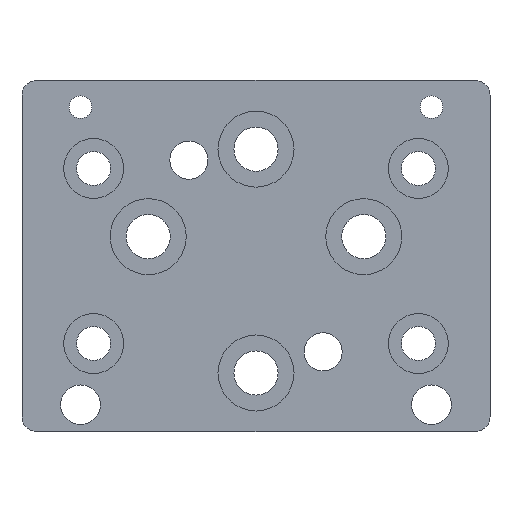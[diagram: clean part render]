
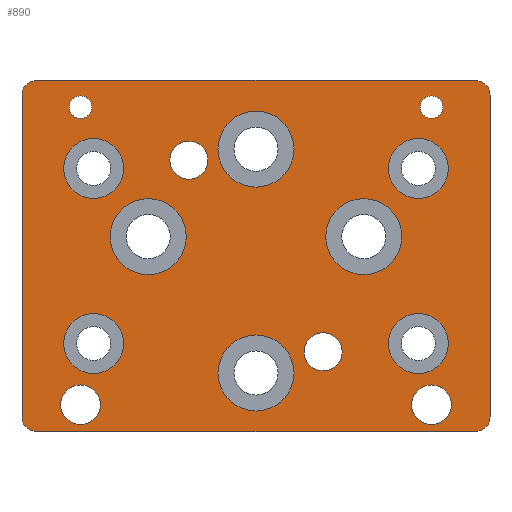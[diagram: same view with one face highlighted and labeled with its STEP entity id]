
A CAD part, front view. The second image highlights one B-rep face of the part: STEP entity #890.
In plain terms, the highlighted planar face has unit normal (0, -1, 0).
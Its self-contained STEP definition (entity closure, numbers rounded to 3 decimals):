
#46=CIRCLE('',#936,4.125);
#47=CIRCLE('',#937,4.125);
#48=CIRCLE('',#938,4.125);
#49=CIRCLE('',#939,4.125);
#50=CIRCLE('',#940,3.25);
#51=CIRCLE('',#941,3.25);
#52=CIRCLE('',#942,3.25);
#53=CIRCLE('',#943,3.25);
#54=CIRCLE('',#944,1.23);
#55=CIRCLE('',#945,1.23);
#56=CIRCLE('',#946,2.15);
#57=CIRCLE('',#947,2.15);
#58=CIRCLE('',#948,2.067);
#59=CIRCLE('',#949,2.067);
#60=CIRCLE('',#950,1.588);
#61=CIRCLE('',#951,1.588);
#62=CIRCLE('',#952,1.588);
#63=CIRCLE('',#953,1.588);
#114=ORIENTED_EDGE('',*,*,#250,.T.);
#115=ORIENTED_EDGE('',*,*,#251,.T.);
#116=ORIENTED_EDGE('',*,*,#252,.T.);
#117=ORIENTED_EDGE('',*,*,#253,.T.);
#118=ORIENTED_EDGE('',*,*,#254,.T.);
#119=ORIENTED_EDGE('',*,*,#255,.T.);
#120=ORIENTED_EDGE('',*,*,#256,.T.);
#121=ORIENTED_EDGE('',*,*,#257,.T.);
#122=ORIENTED_EDGE('',*,*,#258,.F.);
#123=ORIENTED_EDGE('',*,*,#259,.F.);
#124=ORIENTED_EDGE('',*,*,#260,.F.);
#125=ORIENTED_EDGE('',*,*,#261,.F.);
#126=ORIENTED_EDGE('',*,*,#262,.F.);
#127=ORIENTED_EDGE('',*,*,#263,.F.);
#128=ORIENTED_EDGE('',*,*,#240,.F.);
#129=ORIENTED_EDGE('',*,*,#264,.T.);
#130=ORIENTED_EDGE('',*,*,#234,.F.);
#131=ORIENTED_EDGE('',*,*,#265,.T.);
#132=ORIENTED_EDGE('',*,*,#248,.F.);
#133=ORIENTED_EDGE('',*,*,#266,.T.);
#134=ORIENTED_EDGE('',*,*,#242,.F.);
#135=ORIENTED_EDGE('',*,*,#267,.T.);
#234=EDGE_CURVE('',#302,#303,#362,.T.);
#240=EDGE_CURVE('',#308,#309,#368,.T.);
#242=EDGE_CURVE('',#310,#311,#370,.T.);
#248=EDGE_CURVE('',#316,#317,#376,.T.);
#250=EDGE_CURVE('',#318,#318,#46,.T.);
#251=EDGE_CURVE('',#319,#319,#47,.T.);
#252=EDGE_CURVE('',#320,#320,#48,.T.);
#253=EDGE_CURVE('',#321,#321,#49,.T.);
#254=EDGE_CURVE('',#322,#322,#50,.T.);
#255=EDGE_CURVE('',#323,#323,#51,.T.);
#256=EDGE_CURVE('',#324,#324,#52,.T.);
#257=EDGE_CURVE('',#325,#325,#53,.T.);
#258=EDGE_CURVE('',#326,#326,#54,.T.);
#259=EDGE_CURVE('',#327,#327,#55,.T.);
#260=EDGE_CURVE('',#328,#328,#56,.T.);
#261=EDGE_CURVE('',#329,#329,#57,.T.);
#262=EDGE_CURVE('',#330,#330,#58,.T.);
#263=EDGE_CURVE('',#331,#331,#59,.T.);
#264=EDGE_CURVE('',#308,#303,#60,.F.);
#265=EDGE_CURVE('',#302,#317,#61,.F.);
#266=EDGE_CURVE('',#316,#311,#62,.F.);
#267=EDGE_CURVE('',#310,#309,#63,.F.);
#302=VERTEX_POINT('',#1228);
#303=VERTEX_POINT('',#1229);
#308=VERTEX_POINT('',#1240);
#309=VERTEX_POINT('',#1242);
#310=VERTEX_POINT('',#1246);
#311=VERTEX_POINT('',#1247);
#316=VERTEX_POINT('',#1258);
#317=VERTEX_POINT('',#1260);
#318=VERTEX_POINT('',#1264);
#319=VERTEX_POINT('',#1266);
#320=VERTEX_POINT('',#1268);
#321=VERTEX_POINT('',#1270);
#322=VERTEX_POINT('',#1272);
#323=VERTEX_POINT('',#1274);
#324=VERTEX_POINT('',#1276);
#325=VERTEX_POINT('',#1278);
#326=VERTEX_POINT('',#1280);
#327=VERTEX_POINT('',#1282);
#328=VERTEX_POINT('',#1284);
#329=VERTEX_POINT('',#1286);
#330=VERTEX_POINT('',#1288);
#331=VERTEX_POINT('',#1290);
#362=LINE('',#1227,#378);
#368=LINE('',#1241,#384);
#370=LINE('',#1245,#386);
#376=LINE('',#1259,#392);
#378=VECTOR('',#1027,1000.);
#384=VECTOR('',#1035,1000.);
#386=VECTOR('',#1039,1000.);
#392=VECTOR('',#1047,1000.);
#398=EDGE_LOOP('',(#114));
#399=EDGE_LOOP('',(#115));
#400=EDGE_LOOP('',(#116));
#401=EDGE_LOOP('',(#117));
#402=EDGE_LOOP('',(#118));
#403=EDGE_LOOP('',(#119));
#404=EDGE_LOOP('',(#120));
#405=EDGE_LOOP('',(#121));
#406=EDGE_LOOP('',(#122));
#407=EDGE_LOOP('',(#123));
#408=EDGE_LOOP('',(#124));
#409=EDGE_LOOP('',(#125));
#410=EDGE_LOOP('',(#126));
#411=EDGE_LOOP('',(#127));
#412=EDGE_LOOP('',(#128,#129,#130,#131,#132,#133,#134,#135));
#496=FACE_BOUND('',#398,.T.);
#497=FACE_BOUND('',#399,.T.);
#498=FACE_BOUND('',#400,.T.);
#499=FACE_BOUND('',#401,.T.);
#500=FACE_BOUND('',#402,.T.);
#501=FACE_BOUND('',#403,.T.);
#502=FACE_BOUND('',#404,.T.);
#503=FACE_BOUND('',#405,.T.);
#504=FACE_BOUND('',#406,.T.);
#505=FACE_BOUND('',#407,.T.);
#506=FACE_BOUND('',#408,.T.);
#507=FACE_BOUND('',#409,.T.);
#508=FACE_BOUND('',#410,.T.);
#509=FACE_BOUND('',#411,.T.);
#510=FACE_BOUND('',#412,.T.);
#594=PLANE('',#935);
#890=ADVANCED_FACE('',(#496,#497,#498,#499,#500,#501,#502,#503,#504,#505,
#506,#507,#508,#509,#510),#594,.F.);
#935=AXIS2_PLACEMENT_3D('',#1262,#1049,#1050);
#936=AXIS2_PLACEMENT_3D('',#1263,#1051,#1052);
#937=AXIS2_PLACEMENT_3D('',#1265,#1053,#1054);
#938=AXIS2_PLACEMENT_3D('',#1267,#1055,#1056);
#939=AXIS2_PLACEMENT_3D('',#1269,#1057,#1058);
#940=AXIS2_PLACEMENT_3D('',#1271,#1059,#1060);
#941=AXIS2_PLACEMENT_3D('',#1273,#1061,#1062);
#942=AXIS2_PLACEMENT_3D('',#1275,#1063,#1064);
#943=AXIS2_PLACEMENT_3D('',#1277,#1065,#1066);
#944=AXIS2_PLACEMENT_3D('',#1279,#1067,#1068);
#945=AXIS2_PLACEMENT_3D('',#1281,#1069,#1070);
#946=AXIS2_PLACEMENT_3D('',#1283,#1071,#1072);
#947=AXIS2_PLACEMENT_3D('',#1285,#1073,#1074);
#948=AXIS2_PLACEMENT_3D('',#1287,#1075,#1076);
#949=AXIS2_PLACEMENT_3D('',#1289,#1077,#1078);
#950=AXIS2_PLACEMENT_3D('',#1291,#1079,#1080);
#951=AXIS2_PLACEMENT_3D('',#1292,#1081,#1082);
#952=AXIS2_PLACEMENT_3D('',#1293,#1083,#1084);
#953=AXIS2_PLACEMENT_3D('',#1294,#1085,#1086);
#1027=DIRECTION('',(0.,0.,1.));
#1035=DIRECTION('',(1.,0.,0.));
#1039=DIRECTION('',(0.,0.,-1.));
#1047=DIRECTION('',(-1.,0.,0.));
#1049=DIRECTION('',(0.,1.,0.));
#1050=DIRECTION('',(0.,0.,1.));
#1051=DIRECTION('',(0.,1.,0.));
#1052=DIRECTION('',(0.,0.,-1.));
#1053=DIRECTION('',(0.,1.,0.));
#1054=DIRECTION('',(0.,0.,-1.));
#1055=DIRECTION('',(0.,1.,0.));
#1056=DIRECTION('',(0.,0.,-1.));
#1057=DIRECTION('',(0.,1.,0.));
#1058=DIRECTION('',(0.,0.,-1.));
#1059=DIRECTION('',(0.,1.,0.));
#1060=DIRECTION('',(0.,0.,-1.));
#1061=DIRECTION('',(0.,1.,0.));
#1062=DIRECTION('',(0.,0.,-1.));
#1063=DIRECTION('',(0.,1.,0.));
#1064=DIRECTION('',(0.,0.,-1.));
#1065=DIRECTION('',(0.,1.,0.));
#1066=DIRECTION('',(0.,0.,-1.));
#1067=DIRECTION('',(0.,-1.,0.));
#1068=DIRECTION('',(1.,0.,0.));
#1069=DIRECTION('',(0.,-1.,0.));
#1070=DIRECTION('',(1.,0.,0.));
#1071=DIRECTION('',(0.,-1.,0.));
#1072=DIRECTION('',(1.,0.,0.));
#1073=DIRECTION('',(0.,-1.,0.));
#1074=DIRECTION('',(1.,0.,0.));
#1075=DIRECTION('',(0.,-1.,0.));
#1076=DIRECTION('',(1.,0.,0.));
#1077=DIRECTION('',(0.,-1.,0.));
#1078=DIRECTION('',(1.,0.,0.));
#1079=DIRECTION('',(0.,1.,0.));
#1080=DIRECTION('',(0.,0.,1.));
#1081=DIRECTION('',(0.,1.,0.));
#1082=DIRECTION('',(0.,0.,1.));
#1083=DIRECTION('',(0.,1.,0.));
#1084=DIRECTION('',(0.,0.,1.));
#1085=DIRECTION('',(0.,1.,0.));
#1086=DIRECTION('',(0.,0.,1.));
#1227=CARTESIAN_POINT('',(-25.4,-9.525,-19.05));
#1228=CARTESIAN_POINT('',(-25.4,-9.525,-17.463));
#1229=CARTESIAN_POINT('',(-25.4,-9.525,17.463));
#1240=CARTESIAN_POINT('',(-23.813,-9.525,19.05));
#1241=CARTESIAN_POINT('',(-25.4,-9.525,19.05));
#1242=CARTESIAN_POINT('',(23.813,-9.525,19.05));
#1245=CARTESIAN_POINT('',(25.4,-9.525,19.05));
#1246=CARTESIAN_POINT('',(25.4,-9.525,17.463));
#1247=CARTESIAN_POINT('',(25.4,-9.525,-17.463));
#1258=CARTESIAN_POINT('',(23.813,-9.525,-19.05));
#1259=CARTESIAN_POINT('',(25.4,-9.525,-19.05));
#1260=CARTESIAN_POINT('',(-23.813,-9.525,-19.05));
#1262=CARTESIAN_POINT('',(0.,-9.525,0.));
#1263=CARTESIAN_POINT('',(11.7,-9.525,2.1));
#1264=CARTESIAN_POINT('',(11.7,-9.525,-2.025));
#1265=CARTESIAN_POINT('',(-11.7,-9.525,2.1));
#1266=CARTESIAN_POINT('',(-11.7,-9.525,-2.025));
#1267=CARTESIAN_POINT('',(0.,-9.525,11.6));
#1268=CARTESIAN_POINT('',(0.,-9.525,7.475));
#1269=CARTESIAN_POINT('',(0.,-9.525,-12.7));
#1270=CARTESIAN_POINT('',(0.,-9.525,-16.825));
#1271=CARTESIAN_POINT('',(17.628,-9.525,-9.5));
#1272=CARTESIAN_POINT('',(17.628,-9.525,-12.75));
#1273=CARTESIAN_POINT('',(17.628,-9.525,9.5));
#1274=CARTESIAN_POINT('',(17.628,-9.525,6.25));
#1275=CARTESIAN_POINT('',(-17.628,-9.525,9.5));
#1276=CARTESIAN_POINT('',(-17.628,-9.525,6.25));
#1277=CARTESIAN_POINT('',(-17.628,-9.525,-9.5));
#1278=CARTESIAN_POINT('',(-17.628,-9.525,-12.75));
#1279=CARTESIAN_POINT('',(19.05,-9.525,16.15));
#1280=CARTESIAN_POINT('',(20.28,-9.525,16.15));
#1281=CARTESIAN_POINT('',(-19.05,-9.525,16.15));
#1282=CARTESIAN_POINT('',(-17.821,-9.525,16.15));
#1283=CARTESIAN_POINT('',(19.05,-9.525,-16.15));
#1284=CARTESIAN_POINT('',(21.2,-9.525,-16.15));
#1285=CARTESIAN_POINT('',(-19.05,-9.525,-16.15));
#1286=CARTESIAN_POINT('',(-16.9,-9.525,-16.15));
#1287=CARTESIAN_POINT('',(7.284,-9.525,-10.403));
#1288=CARTESIAN_POINT('',(9.351,-9.525,-10.403));
#1289=CARTESIAN_POINT('',(-7.284,-9.525,10.403));
#1290=CARTESIAN_POINT('',(-5.217,-9.525,10.403));
#1291=CARTESIAN_POINT('',(-23.813,-9.525,17.463));
#1292=CARTESIAN_POINT('',(-23.813,-9.525,-17.463));
#1293=CARTESIAN_POINT('',(23.813,-9.525,-17.463));
#1294=CARTESIAN_POINT('',(23.813,-9.525,17.463));
